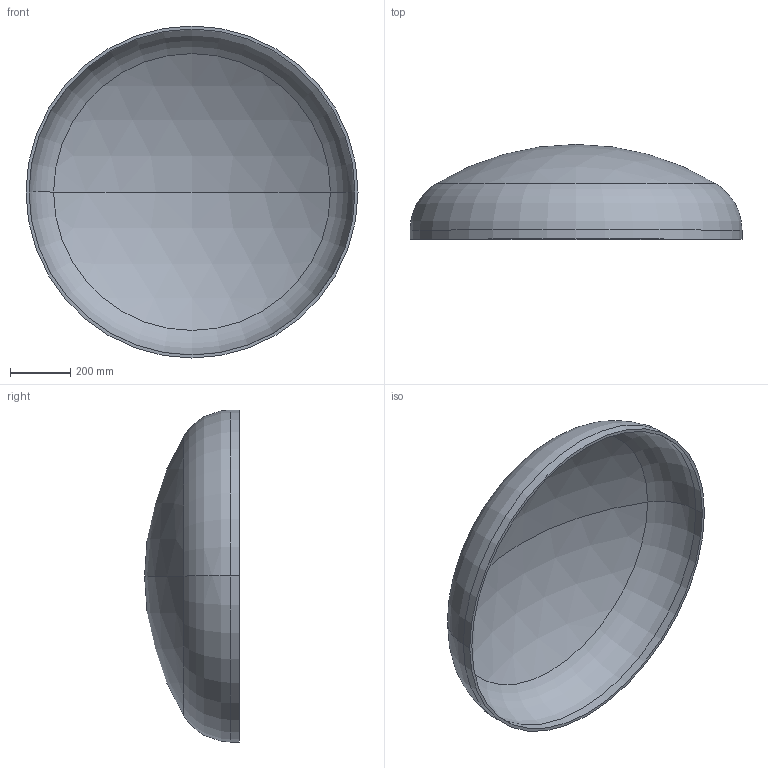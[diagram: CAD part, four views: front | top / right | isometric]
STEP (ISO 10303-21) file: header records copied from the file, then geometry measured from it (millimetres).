
FILE_DESCRIPTION (( 'STEP AP203' ), '1' );
FILE_NAME ('DIN 28013 Korbbogenform_-_Boden DIN 28013 - 1100 x 30 - I - s=10.step', '2016-07-01T09:00:54', ( '' ), ( '' ), 'SwSTEP 2.0', 'SolidWorks 2013', '' );
FILE_SCHEMA (( 'CONFIG_CONTROL_DESIGN' ));
Length unit declared in the file: millimetre
Products named in the file (1): DIN 28013 Korbbogenform_-_Boden DIN 28013 - 1100 x 30 - I - s=10
Bounding box: 1100 x 314.03 x 1100 mm (x, y, z)
Volume: 14041016.9 mm3; surface area: 2842655.1 mm2
Topology: 1 solids, 1 shells, 13 faces, 24 edges, 14 vertices
Faces by surface type: torus 4, cylinder 4, sphere 4, plane 1
Entity records: 407 total; most frequent: DIRECTION 72, CARTESIAN_POINT 52, ORIENTED_EDGE 48, AXIS2_PLACEMENT_3D 34, EDGE_CURVE 24, CIRCLE 20, VERTEX_POINT 14, EDGE_LOOP 14
